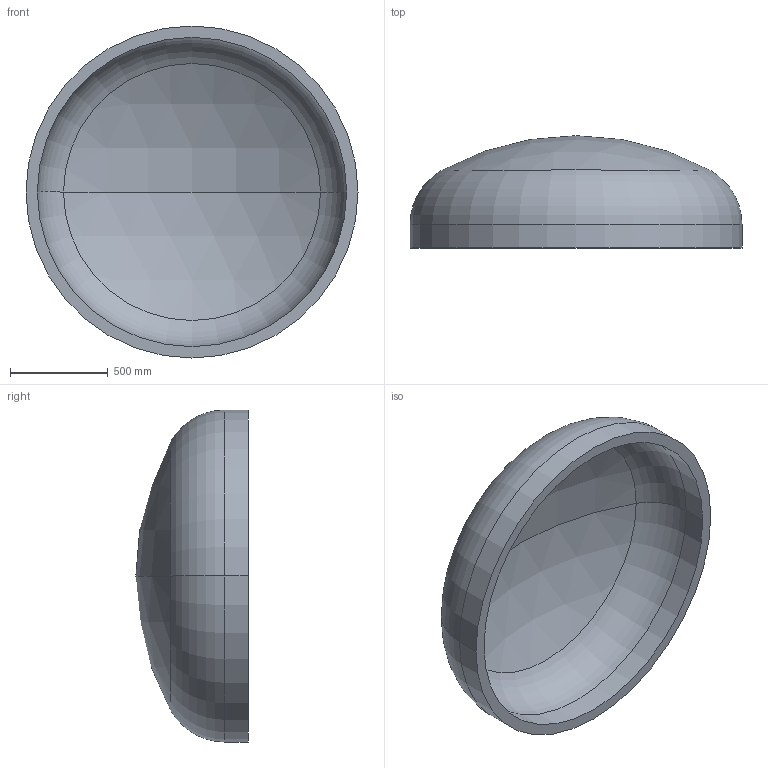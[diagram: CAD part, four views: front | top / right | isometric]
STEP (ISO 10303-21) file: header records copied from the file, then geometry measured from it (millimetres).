
FILE_DESCRIPTION (( 'STEP AP203' ), '1' );
FILE_NAME ('DIN 28013 Korbbogenform_-_Boden DIN 28013 - 1700 x 120 - I - s=58.step', '2016-07-01T11:55:07', ( '' ), ( '' ), 'SwSTEP 2.0', 'SolidWorks 2013', '' );
FILE_SCHEMA (( 'CONFIG_CONTROL_DESIGN' ));
Length unit declared in the file: millimetre
Products named in the file (1): DIN 28013 Korbbogenform_-_Boden DIN 28013 - 1700 x 120 - I - s=58
Bounding box: 1700 x 575.2 x 1700 mm (x, y, z)
Volume: 210070337.2 mm3; surface area: 7550040.9 mm2
Topology: 1 solids, 1 shells, 13 faces, 24 edges, 14 vertices
Faces by surface type: torus 4, cylinder 4, sphere 4, plane 1
Entity records: 407 total; most frequent: DIRECTION 72, CARTESIAN_POINT 52, ORIENTED_EDGE 48, AXIS2_PLACEMENT_3D 34, EDGE_CURVE 24, CIRCLE 20, VERTEX_POINT 14, EDGE_LOOP 14
